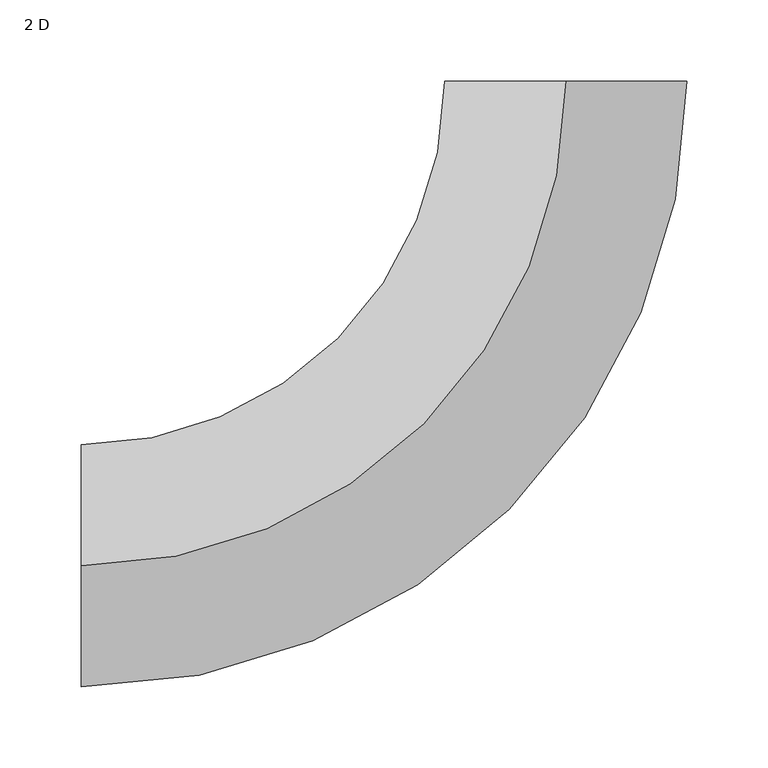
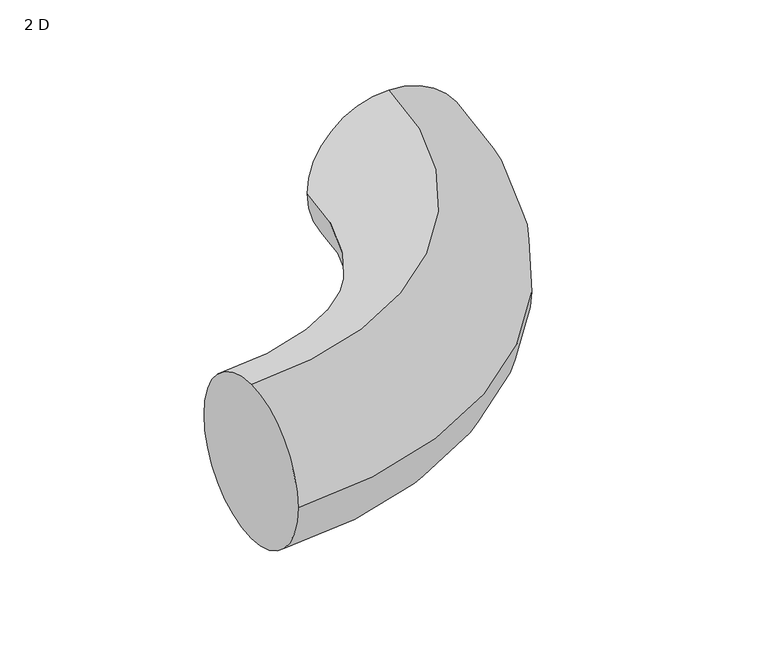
"""IFC4 building model written with IfcOpenShell, lengths in millimetres: duct fitting geometry, M_Cotovelo redondo : 2 D."""

import ifcopenshell
import ifcopenshell.guid

model = None  # the IFC model being written
_history = None  # IfcOwnerHistory: only IFC2X3 demands one
_inside = {}  # id of a spatial element -> (the spatial element, [elements in it])
_under = {}  # id of a project, library or spatial element -> (it, [spatial elements below it])
_declared = {}  # id of a project -> (the project, [libraries it declares])
_typed = {}  # id of a type object -> (the type object, [elements of that type])
_made_of = {}  # id of a material, layer set ... -> (it, [elements and type objects made of it])


def new_model(schema):
    """Start an empty IFC model of exactly this schema.

    Asked for "IFC4X3", IfcOpenShell would pick the latest addendum, in which some entities
    have other attributes; the version numbers below select the first issue.
    IFC2X3 requires an IfcOwnerHistory on every rooted entity: one is made here for all.
    """
    global model, _history
    if schema == "IFC4X3":
        model = ifcopenshell.file(schema_version=(4, 3, 0, 0))
    else:
        model = ifcopenshell.file(schema=schema)
    _inside.clear()
    _under.clear()
    _declared.clear()
    _typed.clear()
    _made_of.clear()
    _history = None
    if model.schema == "IFC2X3":
        org = make("IfcOrganization", Name="unknown")
        user = make(
            "IfcPersonAndOrganization",
            ThePerson=make("IfcPerson", FamilyName="unknown"),
            TheOrganization=org,
        )
        app = make(
            "IfcApplication",
            ApplicationDeveloper=org,
            Version="unknown",
            ApplicationFullName="unknown",
            ApplicationIdentifier="unknown",
        )
        _history = make(
            "IfcOwnerHistory",
            OwningUser=user,
            OwningApplication=app,
            ChangeAction="ADDED",
            CreationDate=0,
        )
    return model


def make(cls, **values):
    """One entity of the class cls with the attributes given. An attribute that is None is left unset."""
    return model.create_entity(
        cls, **{name: value for name, value in values.items() if value is not None}
    )


def rooted(cls, **values):
    """An entity with a GlobalId (a new one), such as an element, a storey or a relation."""
    return make(cls, GlobalId=ifcopenshell.guid.new(), OwnerHistory=_history, **values)


def si_unit(unit_type, name, prefix=None):
    """IfcSIUnit, for example si_unit("LENGTHUNIT", "METRE", prefix="MILLI")."""
    return make("IfcSIUnit", UnitType=unit_type, Prefix=prefix, Name=name)


def assignment(units):
    """IfcUnitAssignment: the units of a project."""
    return None if units is None else make("IfcUnitAssignment", Units=units)


def point(xyz):
    """IfcCartesianPoint."""
    return None if xyz is None else make("IfcCartesianPoint", Coordinates=xyz)


def direction(xyz):
    """IfcDirection."""
    return None if xyz is None else make("IfcDirection", DirectionRatios=xyz)


def frame(location, z_axis=None, x_axis=None):
    """IfcAxis2Placement3D, a coordinate frame: its origin and axes. An axis left out is left unset."""
    return make(
        "IfcAxis2Placement3D",
        Location=point(location),
        Axis=direction(z_axis),
        RefDirection=direction(x_axis),
    )


def origin():
    """The frame at (0, 0, 0) with its axes left unset."""
    return frame((0.0, 0.0, 0.0))


def place(relative_to, where):
    """IfcLocalPlacement: puts the frame where relative to a parent placement (None: the world)."""
    return make(
        "IfcLocalPlacement", PlacementRelTo=relative_to, RelativePlacement=where
    )


def context(
    kind, dimensions, precision=None, world=None, true_north=None, identifier=None
):
    """IfcGeometricRepresentationContext, for example the 3D "Model" context."""
    return make(
        "IfcGeometricRepresentationContext",
        ContextIdentifier=identifier,
        ContextType=kind,
        CoordinateSpaceDimension=dimensions,
        Precision=precision,
        WorldCoordinateSystem=world,
        TrueNorth=true_north,
    )


def project(units=None, contexts=None):
    """IfcProject with its units and contexts."""
    return rooted(
        "IfcProject",
        Name="project",
        RepresentationContexts=contexts,
        UnitsInContext=assignment(units),
    )


def spatial(cls, under=None, at=None, **own):
    """A site, building, storey or space (cls), placed at a placement, below another one or the project."""
    s = rooted(cls, ObjectPlacement=at, **own)
    if under is not None:
        _under.setdefault(under.id(), (under, []))[1].append(s)
    return s


def circle_curve(where, radius):
    """IfcCircle in the frame where."""
    return make("IfcCircle", Position=where, Radius=radius)


def ellipse_curve(where, semi_axis1, semi_axis2):
    """IfcEllipse in the frame where."""
    return make(
        "IfcEllipse", Position=where, SemiAxis1=semi_axis1, SemiAxis2=semi_axis2
    )


def trimmed(basis, trim1, trim2, sense, master):
    """IfcTrimmedCurve: the piece of a basis curve between two trims."""
    return make(
        "IfcTrimmedCurve",
        BasisCurve=basis,
        Trim1=trim1,
        Trim2=trim2,
        SenseAgreement=sense,
        MasterRepresentation=master,
    )


def shape(context_of_items, identifier, shape_type, items):
    """IfcShapeRepresentation: the items that make up one representation, for example the "Body"."""
    return make(
        "IfcShapeRepresentation",
        ContextOfItems=context_of_items,
        RepresentationIdentifier=identifier,
        RepresentationType=shape_type,
        Items=items,
    )


def source(mapping_origin, context_of_items, identifier, shape_type, items):
    """IfcRepresentationMap: a shape defined once, which mapped items show again and again."""
    return make(
        "IfcRepresentationMap",
        MappingOrigin=mapping_origin,
        MappedRepresentation=shape(context_of_items, identifier, shape_type, items),
    )


def transform(
    local_origin,
    x_axis=None,
    y_axis=None,
    z_axis=None,
    scale=None,
    scale2=None,
    scale3=None,
    uniform=True,
):
    """IfcCartesianTransformationOperator3D, or its non-uniform kind. x_axis, y_axis, z_axis: its Axis1, 2, 3."""
    if uniform:
        return make(
            "IfcCartesianTransformationOperator3D",
            Axis1=direction(x_axis),
            Axis2=direction(y_axis),
            LocalOrigin=point(local_origin),
            Scale=scale,
            Axis3=direction(z_axis),
        )
    return make(
        "IfcCartesianTransformationOperator3DnonUniform",
        Axis1=direction(x_axis),
        Axis2=direction(y_axis),
        LocalOrigin=point(local_origin),
        Scale=scale,
        Axis3=direction(z_axis),
        Scale2=scale2,
        Scale3=scale3,
    )


def mapped(mapping_source, mapping_target):
    """IfcMappedItem: shows the shape of a source again, moved by a transform."""
    return make(
        "IfcMappedItem", MappingSource=mapping_source, MappingTarget=mapping_target
    )


def made_of(thing, what):
    """Note that an element or type object is made of a material, layer set ...; save() writes the relation."""
    if what is not None:
        _made_of.setdefault(what.id(), (what, []))[1].append(thing)
    return thing


def element(
    cls,
    number,
    at=None,
    inside=None,
    cuts=None,
    type_object=None,
    material=None,
    context=None,
    identifier="Body",
    shape_type=None,
    held_by="IfcProductDefinitionShape",
    body=None,
    shapes=None,
    **own,
):
    """One element of the class cls, such as IfcWall. Its Tag is "e" and its number.

    at: its placement. inside: the storey or other place that contains it. cuts: it is an
    opening in that element (IfcRelVoidsElement). A single representation is given by context,
    identifier, shape_type and body (its items); several are given by shapes. held_by: the class
    of the entity that holds the representations. save() writes the other relations.
    """
    e = rooted(cls, Tag="e%d" % number, ObjectPlacement=at, **own)
    if body is not None:
        shapes = [shape(context, identifier, shape_type, body)]
    if shapes is not None:
        e.Representation = make(held_by, Representations=shapes)
    if inside is not None:
        _inside.setdefault(inside.id(), (inside, []))[1].append(e)
    if cuts is not None:
        rooted(
            "IfcRelVoidsElement", RelatingBuildingElement=cuts, RelatedOpeningElement=e
        )
    if type_object is not None:
        _typed.setdefault(type_object.id(), (type_object, []))[1].append(e)
    return made_of(e, material)


def aggregate(whole, parts):
    """IfcRelAggregates: a whole, such as a stair, and the parts it consists of."""
    return rooted("IfcRelAggregates", RelatingObject=whole, RelatedObjects=parts)


def save(model, path):
    """Write the relations noted so far, then the file.

    IfcRelAggregates (storeys below a building ...), IfcRelContainedInSpatialStructure (elements
    in a storey), IfcRelDefinesByType, IfcRelAssociatesMaterial and IfcRelDeclares: one each for
    every whole, place, type object, material and project.
    """
    for whole, parts in _under.values():
        aggregate(whole, parts)
    for where, things in _inside.values():
        rooted(
            "IfcRelContainedInSpatialStructure",
            RelatedElements=things,
            RelatingStructure=where,
        )
    for kind, things in _typed.values():
        rooted("IfcRelDefinesByType", RelatedObjects=things, RelatingType=kind)
    for what, things in _made_of.values():
        rooted("IfcRelAssociatesMaterial", RelatedObjects=things, RelatingMaterial=what)
    for by, libraries in _declared.values():
        rooted("IfcRelDeclares", RelatingContext=by, RelatedDefinitions=libraries)
    model.write(path)


def plane_surface(at):
    """IfcPlane: the flat surface through the origin of the frame at, square to its z axis."""
    return make("IfcPlane", Position=at)


def revolved_surface(curve, axis_point, axis_direction):
    """IfcSurfaceOfRevolution: the curve turned about the line through axis_point along axis_direction."""
    return make(
        "IfcSurfaceOfRevolution",
        SweptCurve=make("IfcArbitraryOpenProfileDef", ProfileType="CURVE", Curve=curve),
        AxisPosition=make("IfcAxis1Placement", Location=point(axis_point), Axis=direction(axis_direction)),
    )


def advanced_brep(points, edges, surfaces, faces):
    """IfcAdvancedBrep: a solid bounded by faces that lie on surfaces and meet in shared edges.

    An edge is (start, end): straight between two places in points (the first is 0);
    or (start, end, curve); or (start, end, curve, False) where it runs against its curve.
    A face is (place in surfaces, loops), or (place, loops, False) where it looks against
    its surface's normal. A loop lists edges by number (the first is 1), with a minus sign
    where the edge is run from its end to its start. The first loop is the outer one.
    """
    corners = [point(p) for p in points]
    vertices = [make("IfcVertexPoint", VertexGeometry=c) for c in corners]
    made = []
    for start, end, *more in edges:
        made.append(
            make(
                "IfcEdgeCurve",
                EdgeStart=vertices[start],
                EdgeEnd=vertices[end],
                EdgeGeometry=more[0] if more else make("IfcPolyline", Points=[corners[start], corners[end]]),
                SameSense=more[1] if len(more) > 1 else True,
            )
        )
    hull = []
    for where, loops, *sense in faces:
        bounds = []
        for j, loop in enumerate(loops):
            ring = [make("IfcOrientedEdge", EdgeElement=made[abs(k) - 1], Orientation=k > 0) for k in loop]
            bounds.append(
                make(
                    "IfcFaceOuterBound" if j == 0 else "IfcFaceBound",
                    Bound=make("IfcEdgeLoop", EdgeList=ring),
                    Orientation=True,
                )
            )
        hull.append(make("IfcAdvancedFace", Bounds=bounds, FaceSurface=surfaces[where], SameSense=sense[0] if sense else True))
    return make("IfcAdvancedBrep", Outer=make("IfcClosedShell", CfsFaces=hull))


def duct_fitting_2_d_e46ba55a(model_context):
    return source(origin(), model_context, "Body", "AdvancedBrep", [
        advanced_brep(
        [(-298.0, 0.0, 74.5), (-298.0, 74.5, 0.0), (-298.0, 0.0, -74.5), (-298.0, -74.5, 0.0), (0.0, 298.0, 74.5), (74.5, 298.0, 0.0), (0.0, 298.0, -74.5), (-74.5, 298.0, 0.0)],
        [
            (0, 1, circle_curve(frame((-298.0, 0.0, 0.0), z_axis=(-1.0, 0.0, 0.0), x_axis=(0.0, 1.0, 0.0)), 74.5)),
            (1, 2, circle_curve(frame((-298.0, 0.0, 0.0), z_axis=(-1.0, 0.0, 0.0), x_axis=(0.0, 1.0, 0.0)), 74.5)),
            (2, 3, circle_curve(frame((-298.0, 0.0, 0.0), z_axis=(-1.0, 0.0, 0.0), x_axis=(0.0, 1.0, 0.0)), 74.5)),
            (3, 0, circle_curve(frame((-298.0, 0.0, 0.0), z_axis=(-1.0, 0.0, 0.0), x_axis=(0.0, 1.0, 0.0)), 74.5)),
            (4, 5, circle_curve(frame((0.0, 298.0, 0.0), z_axis=(0.0, 1.0, 0.0), x_axis=(-1.0, 0.0, 0.0)), 74.5)),
            (5, 6, circle_curve(frame((0.0, 298.0, 0.0), z_axis=(0.0, 1.0, 0.0), x_axis=(-1.0, 0.0, 0.0)), 74.5)),
            (6, 7, circle_curve(frame((0.0, 298.0, 0.0), z_axis=(0.0, 1.0, 0.0), x_axis=(-1.0, 0.0, 0.0)), 74.5)),
            (7, 4, circle_curve(frame((0.0, 298.0, 0.0), z_axis=(0.0, 1.0, 0.0), x_axis=(-1.0, 0.0, 0.0)), 74.5)),
            (7, 1, circle_curve(frame((-298.0, 298.0, 0.0), z_axis=(0.0, 0.0, -1.0), x_axis=(0.0, -1.0, 0.0)), 223.5)),
            (0, 4, circle_curve(frame((-298.0, 298.0, 74.5), z_axis=(0.0, 0.0, 1.0), x_axis=(0.0, -1.0, 0.0)), 298.0)),
            (6, 2, circle_curve(frame((-298.0, 298.0, -74.5), z_axis=(0.0, 0.0, -1.0), x_axis=(0.0, -1.0, 0.0)), 298.0)),
            (5, 3, circle_curve(frame((-298.0, 298.0, 0.0), z_axis=(0.0, 0.0, -1.0), x_axis=(0.0, -1.0, 0.0)), 372.5)),
        ],
        [
            plane_surface(frame((-298.0, 0.0, 0.0), z_axis=(-1.0, 0.0, 0.0), x_axis=(0.0, 0.0, 1.0))),
            plane_surface(frame((0.0, 298.0, 0.0), z_axis=(0.0, 1.0, 0.0), x_axis=(0.0, 0.0, 1.0))),
            revolved_surface(trimmed(ellipse_curve(frame((-298.0, 0.0, 0.0), z_axis=(-1.0, 0.0, 0.0), x_axis=(0.0, 1.0, 0.0)), 74.5, 74.5), [point((-298.0, 0.0, 74.5))], [point((-298.0, 74.5, 0.0))], True, "CARTESIAN"), (-298.0, 298.0, 0.0), (0.0, 0.0, 1.0)),
            revolved_surface(trimmed(ellipse_curve(frame((-298.0, 0.0, 0.0), z_axis=(-1.0, 0.0, 0.0), x_axis=(0.0, 1.0, 0.0)), 74.5, 74.5), [point((-298.0, 74.5, 0.0))], [point((-298.0, 0.0, -74.5))], True, "CARTESIAN"), (-298.0, 298.0, 0.0), (0.0, 0.0, 1.0)),
            revolved_surface(trimmed(ellipse_curve(frame((-298.0, 0.0, 0.0), z_axis=(-1.0, 0.0, 0.0), x_axis=(0.0, 1.0, 0.0)), 74.5, 74.5), [point((-298.0, 0.0, -74.5))], [point((-298.0, -74.5, 0.0))], True, "CARTESIAN"), (-298.0, 298.0, 0.0), (0.0, 0.0, 1.0)),
            revolved_surface(trimmed(ellipse_curve(frame((-298.0, 0.0, 0.0), z_axis=(-1.0, 0.0, 0.0), x_axis=(0.0, 1.0, 0.0)), 74.5, 74.5), [point((-298.0, -74.5, 0.0))], [point((-298.0, 0.0, 74.5))], True, "CARTESIAN"), (-298.0, 298.0, 0.0), (0.0, 0.0, 1.0)),
        ],
        [
            (0, [[1, 2, 3, 4]]),
            (1, [[5, 6, 7, 8]]),
            (2, [[9, -1, 10, -8]]),
            (3, [[11, -2, -9, -7]]),
            (4, [[12, -3, -11, -6]]),
            (5, [[-10, -4, -12, -5]]),
        ],
    ),
    ])


if __name__ == "__main__":
    model = new_model("IFC4")
    model_context = context("Model", 3, world=origin())
    ifc_project = project(units=[si_unit("LENGTHUNIT", "METRE", prefix="MILLI")], contexts=[model_context])
    site = spatial("IfcSite", under=ifc_project)
    building = spatial("IfcBuilding", under=site)
    placement = place(None, origin())
    duct_fitting_2_d_shape = duct_fitting_2_d_e46ba55a(model_context)
    element("IfcDuctFitting", 1, ObjectType="M_Cotovelo redondo : 2 D", at=placement, inside=building, context=model_context, shape_type="MappedRepresentation", body=[
        mapped(duct_fitting_2_d_shape, transform((0.0, 0.0, 0.0), x_axis=(1.0, 0.0, 0.0), y_axis=(0.0, 1.0, 0.0), z_axis=(0.0, 0.0, 1.0))),
    ])
    save(model, "model.ifc")
